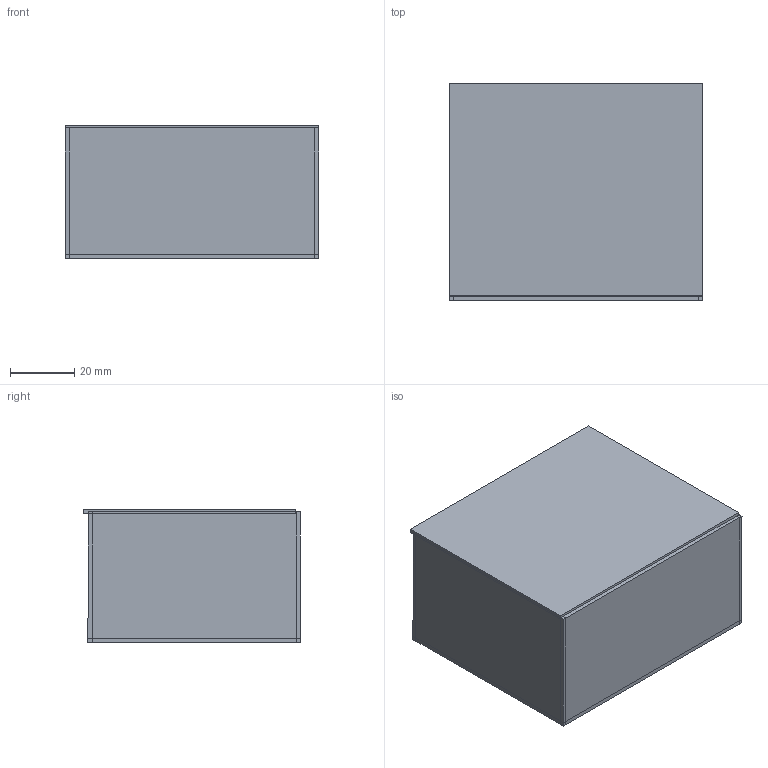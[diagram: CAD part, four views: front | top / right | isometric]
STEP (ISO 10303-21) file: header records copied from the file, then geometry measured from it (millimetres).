
FILE_DESCRIPTION(('HOOPS Exchange Step'),'2;1');
FILE_NAME('***.stp');
FILE_SCHEMA( ('AP242_MANAGED_MODEL_BASED_3D_ENGINEERING_MIM_LF {1 0 10303 442 1 1 4 }') );
Length unit declared in the file: inch
Products named in the file (7): TRNSBX_3X2.5X1.5_2; TRNSBX_3X2.5X1.5_3; TRNSBX_3X2.5X1.5_4; TRNSBX_3X2.5X1.5_5; TRNSBX_3X2.5X1.5_6; TRNSBX_3X2.5X1.5_7; TRNSBX_3X2.5X1.5
Assembly tree (6 placements, depth 2):
  TRNSBX_3X2.5X1.5
    TRNSBX_3X2.5X1.5_2
    TRNSBX_3X2.5X1.5_3
    TRNSBX_3X2.5X1.5_4
    TRNSBX_3X2.5X1.5_5
    TRNSBX_3X2.5X1.5_6
    TRNSBX_3X2.5X1.5_7
Bounding box: 78.74 x 67.37 x 41.38 mm (x, y, z)
Volume: 28152.9 mm3; surface area: 46219.3 mm2
Topology: 6 solids, 6 shells, 36 faces, 72 edges, 48 vertices
Faces by surface type: plane 36
Entity records: 1177 total; most frequent: DIRECTION 172, CARTESIAN_POINT 170, ORIENTED_EDGE 144, VECTOR 72, LINE 72, EDGE_CURVE 72, AXIS2_PLACEMENT_3D 50, VERTEX_POINT 48
